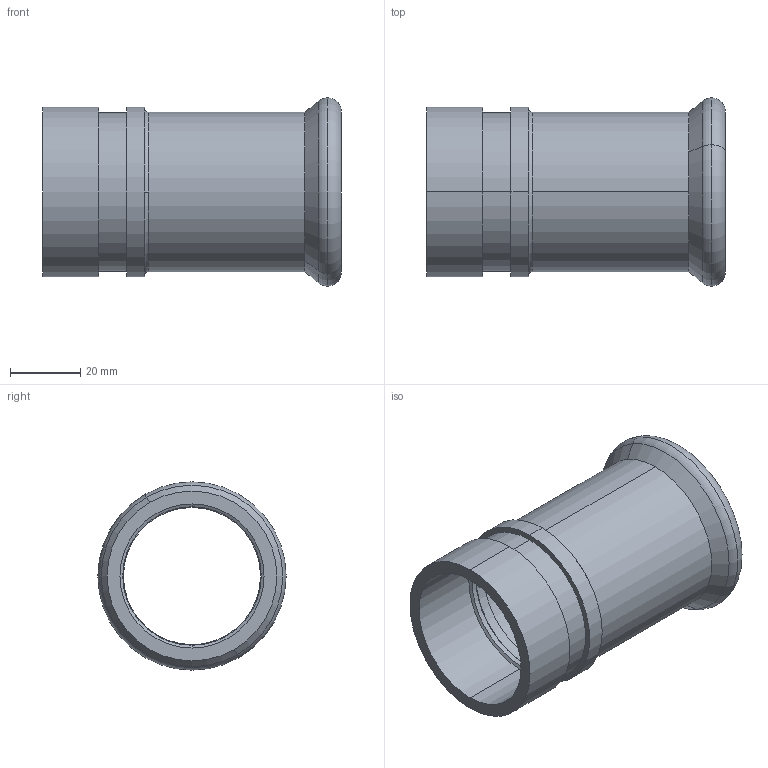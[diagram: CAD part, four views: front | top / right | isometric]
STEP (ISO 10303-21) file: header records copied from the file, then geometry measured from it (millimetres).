
FILE_DESCRIPTION(('CoCreate Modeling STEP Export'),'2;1');
FILE_NAME('C1442 48x42.stp','2014-11-12T16:42:00',(''),(''),'CoCreate Modeling STEP processor for AP214 (Solid Model)','CoCreate Modeling 17.00A 17-Jun-2010 (C) Parametric Technology GmbH','');
FILE_SCHEMA(('AUTOMOTIVE_DESIGN { 1 0 10303 214 1 1 1 1 }'));
Length unit declared in the file: millimetre
Products named in the file (2): CP1442_48x42
Assembly tree (1 placements, depth 2):
  CP1442_48x42
    CP1442_48x42
Bounding box: 85 x 53.55 x 53.55 mm (x, y, z)
Volume: 28749.3 mm3; surface area: 26017.2 mm2
Topology: 1 solids, 1 shells, 37 faces, 91 edges, 61 vertices
Faces by surface type: cylinder 18, plane 7, cone 6, torus 6
Entity records: 914 total; most frequent: ORIENTED_EDGE 182, CARTESIAN_POINT 136, DIRECTION 126, EDGE_CURVE 91, VERTEX_POINT 61, AXIS2_PLACEMENT_3D 51, EDGE_LOOP 44, FACE_OUTER_BOUND 37
